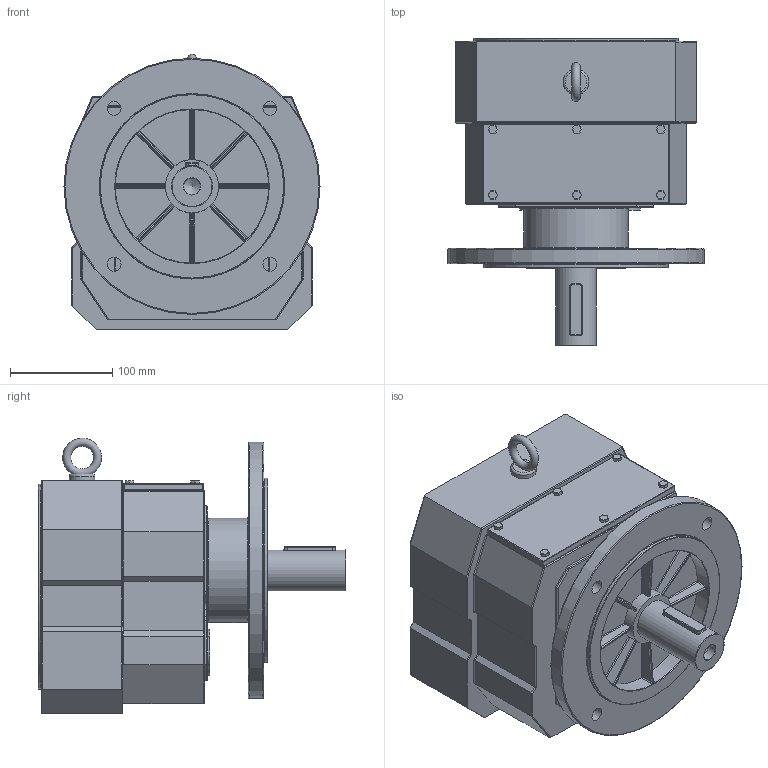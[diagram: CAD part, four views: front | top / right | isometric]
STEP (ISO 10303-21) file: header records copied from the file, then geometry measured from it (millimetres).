
FILE_DESCRIPTION((''),'2;1');
FILE_NAME('D:\PAWEŁ\ZLECENIA\2011 DualSystem\Przekładnie DR\DR70\STEP\DRF70_fi 250.stp','2012-06-11T12:10:49',('admin'),(''),'Autodesk Inventor 2009','Autodesk Inventor 2009','');
FILE_SCHEMA(('AUTOMOTIVE_DESIGN { 1 0 10303 214 1 1 1 1 }'));
Length unit declared in the file: millimetre
Products named in the file (1): DRF70_fi 250
Bounding box: 250 x 300 x 268.93 mm (x, y, z)
Volume: 8708390.8 mm3; surface area: 411507.2 mm2
Topology: 2 solids, 2 shells, 504 faces, 1206 edges, 682 vertices
Faces by surface type: cylinder 231, plane 165, sphere 44, bspline 43, torus 21
Full cylindrical faces by diameter (mm): 25 x1, 30 x1, 40 x1, 41 x1, 45 x1, 52 x1, 102 x1, 150 x1, 160 x1, 180 x1, 200 x1, 250 x1
Entity records: 16890 total; most frequent: CARTESIAN_POINT 5303, DIRECTION 2486, ORIENTED_EDGE 2256, EDGE_CURVE 1128, AXIS2_PLACEMENT_3D 939, VERTEX_POINT 673, VECTOR 608, LINE 608
